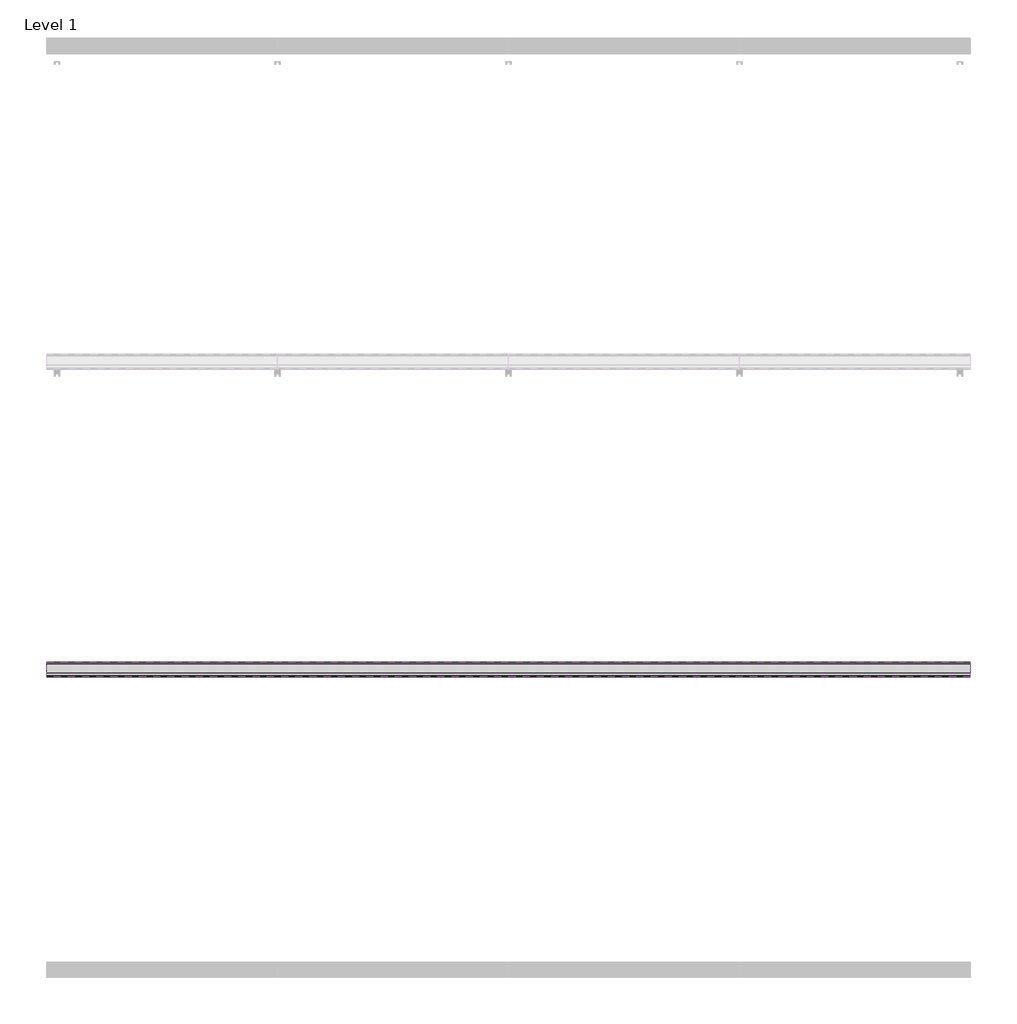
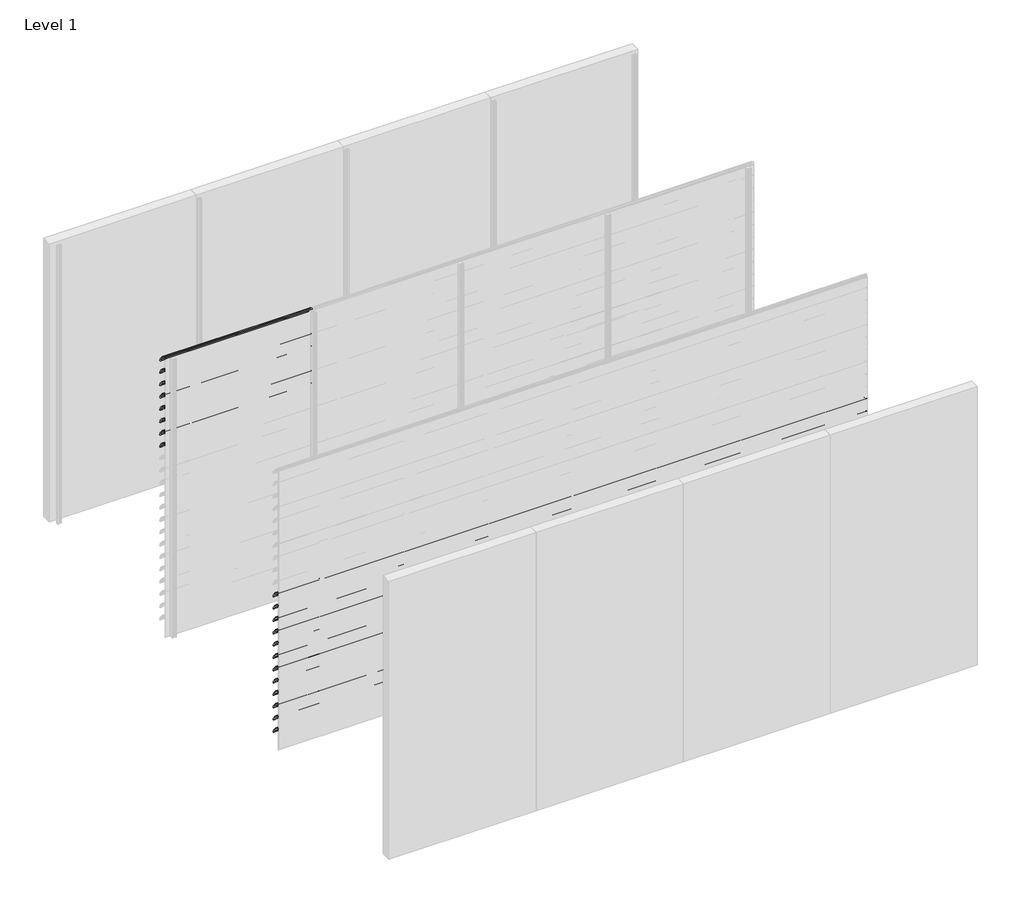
# One storey, part 42 of 57: 20 proxies.
"""IFC4 building model written with IfcOpenShell, lengths in millimetres."""

from ifc_helpers import new_model, si_unit, point, frame, frame_2d, origin, place, context, project, spatial, polyline, circle_curve, trimmed, segment, composite_curve, outline, extrude, element, save

model = new_model("IFC4")

# Units and contexts
model_context = context("Model", 3, world=origin())
ifc_project = project(units=[si_unit("LENGTHUNIT", "METRE", prefix="MILLI")], contexts=[model_context])

# Site, building, storey
site = spatial("IfcSite", under=ifc_project)
building = spatial("IfcBuilding", under=site)
storey = spatial("IfcBuildingStorey", under=building, Name="Level 1", Elevation=0.0)

# Proxies
placement = place(None, origin())
element("IfcBuildingElementProxy", 1, Name="Wall Sweeps", at=placement, inside=storey, context=model_context, shape_type="SweptSolid", body=[
    extrude(outline(composite_curve([segment(trimmed(circle_curve(frame_2d((-11993.7822526, 3016.4913792)), 4.2177474), [point((-11989.6985606, 3017.5462976))], [point((-11993.7822526, 3020.7091266))], False, "CARTESIAN"), True, "CONTINUOUS"), segment(trimmed(circle_curve(frame_2d((-12018.7150834, 2918.2536312)), 105.4456002), [point((-11993.7822526, 3020.7091266))], [point((-11971.7914298, 3012.6832099))], False, "CARTESIAN"), True, "CONTINUOUS"), segment(trimmed(circle_curve(frame_2d((-12061.7199745, 2864.0352476)), 173.7335887), [point((-11971.7914298, 3012.6832099))], [point((-11913.0720121, 2953.9637922))], False, "CARTESIAN"), True, "CONTINUOUS"), segment(trimmed(circle_curve(frame_2d((-12004.9297178, 2902.1860314)), 105.4456002), [point((-11913.0720121, 2953.9637922))], [point((-11903.6249616, 2931.4455765))], False, "CARTESIAN"), True, "CONTINUOUS"), segment(trimmed(circle_curve(frame_2d((-11907.809737, 2930.3307305)), 4.3307305), [point((-11903.6249616, 2931.4455765))], [point((-11909.0769196, 2926.189538))], False, "CARTESIAN"), True, "CONTINUOUS"), segment(polyline([(-11909.0769196, 2926.189538), (-11934.7401984, 2950.9722783)]), True, "CONTINUOUS"), segment(trimmed(circle_curve(frame_2d((-11931.3879574, 2953.2977626)), 4.079877), [point((-11934.7401984, 2950.9722783))], [point((-11930.7310597, 2957.3244091))], False, "CARTESIAN"), True, "CONTINUOUS"), segment(trimmed(circle_curve(frame_2d((-12014.6665585, 2935.2544323)), 86.7885467), [point((-11930.7310597, 2957.3244091))], [point((-11942.3028351, 2983.1683485))], True, "CARTESIAN"), True, "CONTINUOUS"), segment(polyline([(-11942.3028351, 2983.1683485), (-11940.7230099, 2985.9046861)]), True, "CONTINUOUS"), segment(trimmed(circle_curve(frame_2d((-12061.7199745, 2864.0352476)), 171.7335887), [point((-11940.7230099, 2985.9046861))], [point((-11972.7555872, 3010.9289618))], True, "CARTESIAN"), True, "CONTINUOUS"), segment(trimmed(circle_curve(frame_2d((-12018.7150834, 2918.2536312)), 103.4456002), [point((-11972.7555872, 3010.9289618))], [point((-11989.6985606, 3017.5462976))], True, "CARTESIAN"), True, "CONTINUOUS")], self_intersect=False)), frame((0.0, 0.0, 0.0), z_axis=(1.0, 0.0, 0.0), x_axis=(0.0, 1.0, 0.0)), (0.0, 0.0, 1.0), 1500.0),
])
element("IfcBuildingElementProxy", 2, Name="Wall Sweeps", at=placement, inside=storey, context=model_context, shape_type="SweptSolid", body=[
    extrude(outline(composite_curve([segment(trimmed(circle_curve(frame_2d((-11993.7822526, 2883.4913792)), 4.2177474), [point((-11989.6985606, 2884.5462976))], [point((-11993.7822526, 2887.7091266))], False, "CARTESIAN"), True, "CONTINUOUS"), segment(trimmed(circle_curve(frame_2d((-12018.7150834, 2785.2536312)), 105.4456002), [point((-11993.7822526, 2887.7091266))], [point((-11971.7914298, 2879.6832099))], False, "CARTESIAN"), True, "CONTINUOUS"), segment(trimmed(circle_curve(frame_2d((-12061.7199745, 2731.0352476)), 173.7335887), [point((-11971.7914298, 2879.6832099))], [point((-11913.0720121, 2820.9637922))], False, "CARTESIAN"), True, "CONTINUOUS"), segment(trimmed(circle_curve(frame_2d((-12004.9297178, 2769.1860314)), 105.4456002), [point((-11913.0720121, 2820.9637922))], [point((-11903.6249616, 2798.4455765))], False, "CARTESIAN"), True, "CONTINUOUS"), segment(trimmed(circle_curve(frame_2d((-11907.809737, 2797.3307305)), 4.3307305), [point((-11903.6249616, 2798.4455765))], [point((-11909.0769196, 2793.189538))], False, "CARTESIAN"), True, "CONTINUOUS"), segment(polyline([(-11909.0769196, 2793.189538), (-11934.7401984, 2817.9722783)]), True, "CONTINUOUS"), segment(trimmed(circle_curve(frame_2d((-11931.3879574, 2820.2977626)), 4.079877), [point((-11934.7401984, 2817.9722783))], [point((-11930.7310597, 2824.3244091))], False, "CARTESIAN"), True, "CONTINUOUS"), segment(trimmed(circle_curve(frame_2d((-12014.6665585, 2802.2544323)), 86.7885467), [point((-11930.7310597, 2824.3244091))], [point((-11942.3028351, 2850.1683485))], True, "CARTESIAN"), True, "CONTINUOUS"), segment(polyline([(-11942.3028351, 2850.1683485), (-11940.7230099, 2852.9046861)]), True, "CONTINUOUS"), segment(trimmed(circle_curve(frame_2d((-12061.7199745, 2731.0352476)), 171.7335887), [point((-11940.7230099, 2852.9046861))], [point((-11972.7555872, 2877.9289618))], True, "CARTESIAN"), True, "CONTINUOUS"), segment(trimmed(circle_curve(frame_2d((-12018.7150834, 2785.2536312)), 103.4456002), [point((-11972.7555872, 2877.9289618))], [point((-11989.6985606, 2884.5462976))], True, "CARTESIAN"), True, "CONTINUOUS")], self_intersect=False)), frame((0.0, 0.0, 0.0), z_axis=(1.0, 0.0, 0.0), x_axis=(0.0, 1.0, 0.0)), (0.0, 0.0, 1.0), 1500.0),
])
element("IfcBuildingElementProxy", 3, Name="Wall Sweeps", at=placement, inside=storey, context=model_context, shape_type="SweptSolid", body=[
    extrude(outline(composite_curve([segment(trimmed(circle_curve(frame_2d((-11993.7822526, 2750.4913792)), 4.2177474), [point((-11989.6985606, 2751.5462976))], [point((-11993.7822526, 2754.7091266))], False, "CARTESIAN"), True, "CONTINUOUS"), segment(trimmed(circle_curve(frame_2d((-12018.7150834, 2652.2536312)), 105.4456002), [point((-11993.7822526, 2754.7091266))], [point((-11971.7914298, 2746.6832099))], False, "CARTESIAN"), True, "CONTINUOUS"), segment(trimmed(circle_curve(frame_2d((-12061.7199745, 2598.0352476)), 173.7335887), [point((-11971.7914298, 2746.6832099))], [point((-11913.0720121, 2687.9637922))], False, "CARTESIAN"), True, "CONTINUOUS"), segment(trimmed(circle_curve(frame_2d((-12004.9297178, 2636.1860314)), 105.4456002), [point((-11913.0720121, 2687.9637922))], [point((-11903.6249616, 2665.4455765))], False, "CARTESIAN"), True, "CONTINUOUS"), segment(trimmed(circle_curve(frame_2d((-11907.809737, 2664.3307305)), 4.3307305), [point((-11903.6249616, 2665.4455765))], [point((-11909.0769196, 2660.189538))], False, "CARTESIAN"), True, "CONTINUOUS"), segment(polyline([(-11909.0769196, 2660.189538), (-11934.7401984, 2684.9722783)]), True, "CONTINUOUS"), segment(trimmed(circle_curve(frame_2d((-11931.3879574, 2687.2977626)), 4.079877), [point((-11934.7401984, 2684.9722783))], [point((-11930.7310597, 2691.3244091))], False, "CARTESIAN"), True, "CONTINUOUS"), segment(trimmed(circle_curve(frame_2d((-12014.6665585, 2669.2544323)), 86.7885467), [point((-11930.7310597, 2691.3244091))], [point((-11942.3028351, 2717.1683485))], True, "CARTESIAN"), True, "CONTINUOUS"), segment(polyline([(-11942.3028351, 2717.1683485), (-11940.7230099, 2719.9046861)]), True, "CONTINUOUS"), segment(trimmed(circle_curve(frame_2d((-12061.7199745, 2598.0352476)), 171.7335887), [point((-11940.7230099, 2719.9046861))], [point((-11972.7555872, 2744.9289618))], True, "CARTESIAN"), True, "CONTINUOUS"), segment(trimmed(circle_curve(frame_2d((-12018.7150834, 2652.2536312)), 103.4456002), [point((-11972.7555872, 2744.9289618))], [point((-11989.6985606, 2751.5462976))], True, "CARTESIAN"), True, "CONTINUOUS")], self_intersect=False)), frame((0.0, 0.0, 0.0), z_axis=(1.0, 0.0, 0.0), x_axis=(0.0, 1.0, 0.0)), (0.0, 0.0, 1.0), 1500.0),
])
element("IfcBuildingElementProxy", 4, Name="Wall Sweeps", at=placement, inside=storey, context=model_context, shape_type="SweptSolid", body=[
    extrude(outline(composite_curve([segment(trimmed(circle_curve(frame_2d((-11993.7822526, 2617.4913792)), 4.2177474), [point((-11989.6985606, 2618.5462976))], [point((-11993.7822526, 2621.7091266))], False, "CARTESIAN"), True, "CONTINUOUS"), segment(trimmed(circle_curve(frame_2d((-12018.7150834, 2519.2536312)), 105.4456002), [point((-11993.7822526, 2621.7091266))], [point((-11971.7914298, 2613.6832099))], False, "CARTESIAN"), True, "CONTINUOUS"), segment(trimmed(circle_curve(frame_2d((-12061.7199745, 2465.0352476)), 173.7335887), [point((-11971.7914298, 2613.6832099))], [point((-11913.0720121, 2554.9637922))], False, "CARTESIAN"), True, "CONTINUOUS"), segment(trimmed(circle_curve(frame_2d((-12004.9297178, 2503.1860314)), 105.4456002), [point((-11913.0720121, 2554.9637922))], [point((-11903.6249616, 2532.4455765))], False, "CARTESIAN"), True, "CONTINUOUS"), segment(trimmed(circle_curve(frame_2d((-11907.809737, 2531.3307305)), 4.3307305), [point((-11903.6249616, 2532.4455765))], [point((-11909.0769196, 2527.189538))], False, "CARTESIAN"), True, "CONTINUOUS"), segment(polyline([(-11909.0769196, 2527.189538), (-11934.7401984, 2551.9722783)]), True, "CONTINUOUS"), segment(trimmed(circle_curve(frame_2d((-11931.3879574, 2554.2977626)), 4.079877), [point((-11934.7401984, 2551.9722783))], [point((-11930.7310597, 2558.3244091))], False, "CARTESIAN"), True, "CONTINUOUS"), segment(trimmed(circle_curve(frame_2d((-12014.6665585, 2536.2544323)), 86.7885467), [point((-11930.7310597, 2558.3244091))], [point((-11942.3028351, 2584.1683485))], True, "CARTESIAN"), True, "CONTINUOUS"), segment(polyline([(-11942.3028351, 2584.1683485), (-11940.7230099, 2586.9046861)]), True, "CONTINUOUS"), segment(trimmed(circle_curve(frame_2d((-12061.7199745, 2465.0352476)), 171.7335887), [point((-11940.7230099, 2586.9046861))], [point((-11972.7555872, 2611.9289618))], True, "CARTESIAN"), True, "CONTINUOUS"), segment(trimmed(circle_curve(frame_2d((-12018.7150834, 2519.2536312)), 103.4456002), [point((-11972.7555872, 2611.9289618))], [point((-11989.6985606, 2618.5462976))], True, "CARTESIAN"), True, "CONTINUOUS")], self_intersect=False)), frame((0.0, 0.0, 0.0), z_axis=(1.0, 0.0, 0.0), x_axis=(0.0, 1.0, 0.0)), (0.0, 0.0, 1.0), 1500.0),
])
element("IfcBuildingElementProxy", 5, Name="Wall Sweeps", at=placement, inside=storey, context=model_context, shape_type="SweptSolid", body=[
    extrude(outline(composite_curve([segment(trimmed(circle_curve(frame_2d((-11993.7822526, 2484.4913792)), 4.2177474), [point((-11989.6985606, 2485.5462976))], [point((-11993.7822526, 2488.7091266))], False, "CARTESIAN"), True, "CONTINUOUS"), segment(trimmed(circle_curve(frame_2d((-12018.7150834, 2386.2536312)), 105.4456002), [point((-11993.7822526, 2488.7091266))], [point((-11971.7914298, 2480.6832099))], False, "CARTESIAN"), True, "CONTINUOUS"), segment(trimmed(circle_curve(frame_2d((-12061.7199745, 2332.0352476)), 173.7335887), [point((-11971.7914298, 2480.6832099))], [point((-11913.0720121, 2421.9637922))], False, "CARTESIAN"), True, "CONTINUOUS"), segment(trimmed(circle_curve(frame_2d((-12004.9297178, 2370.1860314)), 105.4456002), [point((-11913.0720121, 2421.9637922))], [point((-11903.6249616, 2399.4455765))], False, "CARTESIAN"), True, "CONTINUOUS"), segment(trimmed(circle_curve(frame_2d((-11907.809737, 2398.3307305)), 4.3307305), [point((-11903.6249616, 2399.4455765))], [point((-11909.0769196, 2394.189538))], False, "CARTESIAN"), True, "CONTINUOUS"), segment(polyline([(-11909.0769196, 2394.189538), (-11934.7401984, 2418.9722783)]), True, "CONTINUOUS"), segment(trimmed(circle_curve(frame_2d((-11931.3879574, 2421.2977626)), 4.079877), [point((-11934.7401984, 2418.9722783))], [point((-11930.7310597, 2425.3244091))], False, "CARTESIAN"), True, "CONTINUOUS"), segment(trimmed(circle_curve(frame_2d((-12014.6665585, 2403.2544323)), 86.7885467), [point((-11930.7310597, 2425.3244091))], [point((-11942.3028351, 2451.1683485))], True, "CARTESIAN"), True, "CONTINUOUS"), segment(polyline([(-11942.3028351, 2451.1683485), (-11940.7230099, 2453.9046861)]), True, "CONTINUOUS"), segment(trimmed(circle_curve(frame_2d((-12061.7199745, 2332.0352476)), 171.7335887), [point((-11940.7230099, 2453.9046861))], [point((-11972.7555872, 2478.9289618))], True, "CARTESIAN"), True, "CONTINUOUS"), segment(trimmed(circle_curve(frame_2d((-12018.7150834, 2386.2536312)), 103.4456002), [point((-11972.7555872, 2478.9289618))], [point((-11989.6985606, 2485.5462976))], True, "CARTESIAN"), True, "CONTINUOUS")], self_intersect=False)), frame((0.0, 0.0, 0.0), z_axis=(1.0, 0.0, 0.0), x_axis=(0.0, 1.0, 0.0)), (0.0, 0.0, 1.0), 1500.0),
])
element("IfcBuildingElementProxy", 6, Name="Wall Sweeps", at=placement, inside=storey, context=model_context, shape_type="SweptSolid", body=[
    extrude(outline(composite_curve([segment(trimmed(circle_curve(frame_2d((-11993.7822526, 2351.4913792)), 4.2177474), [point((-11989.6985606, 2352.5462976))], [point((-11993.7822526, 2355.7091266))], False, "CARTESIAN"), True, "CONTINUOUS"), segment(trimmed(circle_curve(frame_2d((-12018.7150834, 2253.2536312)), 105.4456002), [point((-11993.7822526, 2355.7091266))], [point((-11971.7914298, 2347.6832099))], False, "CARTESIAN"), True, "CONTINUOUS"), segment(trimmed(circle_curve(frame_2d((-12061.7199745, 2199.0352476)), 173.7335887), [point((-11971.7914298, 2347.6832099))], [point((-11913.0720121, 2288.9637922))], False, "CARTESIAN"), True, "CONTINUOUS"), segment(trimmed(circle_curve(frame_2d((-12004.9297178, 2237.1860314)), 105.4456002), [point((-11913.0720121, 2288.9637922))], [point((-11903.6249616, 2266.4455765))], False, "CARTESIAN"), True, "CONTINUOUS"), segment(trimmed(circle_curve(frame_2d((-11907.809737, 2265.3307305)), 4.3307305), [point((-11903.6249616, 2266.4455765))], [point((-11909.0769196, 2261.189538))], False, "CARTESIAN"), True, "CONTINUOUS"), segment(polyline([(-11909.0769196, 2261.189538), (-11934.7401984, 2285.9722783)]), True, "CONTINUOUS"), segment(trimmed(circle_curve(frame_2d((-11931.3879574, 2288.2977626)), 4.079877), [point((-11934.7401984, 2285.9722783))], [point((-11930.7310597, 2292.3244091))], False, "CARTESIAN"), True, "CONTINUOUS"), segment(trimmed(circle_curve(frame_2d((-12014.6665585, 2270.2544323)), 86.7885467), [point((-11930.7310597, 2292.3244091))], [point((-11942.3028351, 2318.1683485))], True, "CARTESIAN"), True, "CONTINUOUS"), segment(polyline([(-11942.3028351, 2318.1683485), (-11940.7230099, 2320.9046861)]), True, "CONTINUOUS"), segment(trimmed(circle_curve(frame_2d((-12061.7199745, 2199.0352476)), 171.7335887), [point((-11940.7230099, 2320.9046861))], [point((-11972.7555872, 2345.9289618))], True, "CARTESIAN"), True, "CONTINUOUS"), segment(trimmed(circle_curve(frame_2d((-12018.7150834, 2253.2536312)), 103.4456002), [point((-11972.7555872, 2345.9289618))], [point((-11989.6985606, 2352.5462976))], True, "CARTESIAN"), True, "CONTINUOUS")], self_intersect=False)), frame((0.0, 0.0, 0.0), z_axis=(1.0, 0.0, 0.0), x_axis=(0.0, 1.0, 0.0)), (0.0, 0.0, 1.0), 1500.0),
])
element("IfcBuildingElementProxy", 7, Name="Wall Sweeps", at=placement, inside=storey, context=model_context, shape_type="SweptSolid", body=[
    extrude(outline(composite_curve([segment(trimmed(circle_curve(frame_2d((-11993.7822526, 2218.4913792)), 4.2177474), [point((-11989.6985606, 2219.5462976))], [point((-11993.7822526, 2222.7091266))], False, "CARTESIAN"), True, "CONTINUOUS"), segment(trimmed(circle_curve(frame_2d((-12018.7150834, 2120.2536312)), 105.4456002), [point((-11993.7822526, 2222.7091266))], [point((-11971.7914298, 2214.6832099))], False, "CARTESIAN"), True, "CONTINUOUS"), segment(trimmed(circle_curve(frame_2d((-12061.7199745, 2066.0352476)), 173.7335887), [point((-11971.7914298, 2214.6832099))], [point((-11913.0720121, 2155.9637922))], False, "CARTESIAN"), True, "CONTINUOUS"), segment(trimmed(circle_curve(frame_2d((-12004.9297178, 2104.1860314)), 105.4456002), [point((-11913.0720121, 2155.9637922))], [point((-11903.6249616, 2133.4455765))], False, "CARTESIAN"), True, "CONTINUOUS"), segment(trimmed(circle_curve(frame_2d((-11907.809737, 2132.3307305)), 4.3307305), [point((-11903.6249616, 2133.4455765))], [point((-11909.0769196, 2128.189538))], False, "CARTESIAN"), True, "CONTINUOUS"), segment(polyline([(-11909.0769196, 2128.189538), (-11934.7401984, 2152.9722783)]), True, "CONTINUOUS"), segment(trimmed(circle_curve(frame_2d((-11931.3879574, 2155.2977626)), 4.079877), [point((-11934.7401984, 2152.9722783))], [point((-11930.7310597, 2159.3244091))], False, "CARTESIAN"), True, "CONTINUOUS"), segment(trimmed(circle_curve(frame_2d((-12014.6665585, 2137.2544323)), 86.7885467), [point((-11930.7310597, 2159.3244091))], [point((-11942.3028351, 2185.1683485))], True, "CARTESIAN"), True, "CONTINUOUS"), segment(polyline([(-11942.3028351, 2185.1683485), (-11940.7230099, 2187.9046861)]), True, "CONTINUOUS"), segment(trimmed(circle_curve(frame_2d((-12061.7199745, 2066.0352476)), 171.7335887), [point((-11940.7230099, 2187.9046861))], [point((-11972.7555872, 2212.9289618))], True, "CARTESIAN"), True, "CONTINUOUS"), segment(trimmed(circle_curve(frame_2d((-12018.7150834, 2120.2536312)), 103.4456002), [point((-11972.7555872, 2212.9289618))], [point((-11989.6985606, 2219.5462976))], True, "CARTESIAN"), True, "CONTINUOUS")], self_intersect=False)), frame((0.0, 0.0, 0.0), z_axis=(1.0, 0.0, 0.0), x_axis=(0.0, 1.0, 0.0)), (0.0, 0.0, 1.0), 1500.0),
])
element("IfcBuildingElementProxy", 8, Name="Wall Sweeps", at=placement, inside=storey, context=model_context, shape_type="SweptSolid", body=[
    extrude(outline(composite_curve([segment(trimmed(circle_curve(frame_2d((-11993.7822526, 2085.4913792)), 4.2177474), [point((-11989.6985606, 2086.5462976))], [point((-11993.7822526, 2089.7091266))], False, "CARTESIAN"), True, "CONTINUOUS"), segment(trimmed(circle_curve(frame_2d((-12018.7150834, 1987.2536312)), 105.4456002), [point((-11993.7822526, 2089.7091266))], [point((-11971.7914298, 2081.6832099))], False, "CARTESIAN"), True, "CONTINUOUS"), segment(trimmed(circle_curve(frame_2d((-12061.7199745, 1933.0352476)), 173.7335887), [point((-11971.7914298, 2081.6832099))], [point((-11913.0720121, 2022.9637922))], False, "CARTESIAN"), True, "CONTINUOUS"), segment(trimmed(circle_curve(frame_2d((-12004.9297178, 1971.1860314)), 105.4456002), [point((-11913.0720121, 2022.9637922))], [point((-11903.6249616, 2000.4455765))], False, "CARTESIAN"), True, "CONTINUOUS"), segment(trimmed(circle_curve(frame_2d((-11907.809737, 1999.3307305)), 4.3307305), [point((-11903.6249616, 2000.4455765))], [point((-11909.0769196, 1995.189538))], False, "CARTESIAN"), True, "CONTINUOUS"), segment(polyline([(-11909.0769196, 1995.189538), (-11934.7401984, 2019.9722783)]), True, "CONTINUOUS"), segment(trimmed(circle_curve(frame_2d((-11931.3879574, 2022.2977626)), 4.079877), [point((-11934.7401984, 2019.9722783))], [point((-11930.7310597, 2026.3244091))], False, "CARTESIAN"), True, "CONTINUOUS"), segment(trimmed(circle_curve(frame_2d((-12014.6665585, 2004.2544323)), 86.7885467), [point((-11930.7310597, 2026.3244091))], [point((-11942.3028351, 2052.1683485))], True, "CARTESIAN"), True, "CONTINUOUS"), segment(polyline([(-11942.3028351, 2052.1683485), (-11940.7230099, 2054.9046861)]), True, "CONTINUOUS"), segment(trimmed(circle_curve(frame_2d((-12061.7199745, 1933.0352476)), 171.7335887), [point((-11940.7230099, 2054.9046861))], [point((-11972.7555872, 2079.9289618))], True, "CARTESIAN"), True, "CONTINUOUS"), segment(trimmed(circle_curve(frame_2d((-12018.7150834, 1987.2536312)), 103.4456002), [point((-11972.7555872, 2079.9289618))], [point((-11989.6985606, 2086.5462976))], True, "CARTESIAN"), True, "CONTINUOUS")], self_intersect=False)), frame((0.0, 0.0, 0.0), z_axis=(1.0, 0.0, 0.0), x_axis=(0.0, 1.0, 0.0)), (0.0, 0.0, 1.0), 1500.0),
])
element("IfcBuildingElementProxy", 9, Name="Wall Sweeps", at=placement, inside=storey, context=model_context, shape_type="SweptSolid", body=[
    extrude(outline(composite_curve([segment(trimmed(circle_curve(frame_2d((-13993.7822526, 1686.4913792)), 4.2177474), [point((-13989.6985606, 1687.5462976))], [point((-13993.7822526, 1690.7091266))], False, "CARTESIAN"), True, "CONTINUOUS"), segment(trimmed(circle_curve(frame_2d((-14018.7150834, 1588.2536312)), 105.4456002), [point((-13993.7822526, 1690.7091266))], [point((-13971.7914298, 1682.6832099))], False, "CARTESIAN"), True, "CONTINUOUS"), segment(trimmed(circle_curve(frame_2d((-14061.7199745, 1534.0352476)), 173.7335887), [point((-13971.7914298, 1682.6832099))], [point((-13913.0720121, 1623.9637922))], False, "CARTESIAN"), True, "CONTINUOUS"), segment(trimmed(circle_curve(frame_2d((-14004.9297178, 1572.1860314)), 105.4456002), [point((-13913.0720121, 1623.9637922))], [point((-13903.6249616, 1601.4455765))], False, "CARTESIAN"), True, "CONTINUOUS"), segment(trimmed(circle_curve(frame_2d((-13907.809737, 1600.3307305)), 4.3307305), [point((-13903.6249616, 1601.4455765))], [point((-13909.0769196, 1596.189538))], False, "CARTESIAN"), True, "CONTINUOUS"), segment(polyline([(-13909.0769196, 1596.189538), (-13934.7401984, 1620.9722783)]), True, "CONTINUOUS"), segment(trimmed(circle_curve(frame_2d((-13931.3879574, 1623.2977626)), 4.079877), [point((-13934.7401984, 1620.9722783))], [point((-13930.7310597, 1627.3244091))], False, "CARTESIAN"), True, "CONTINUOUS"), segment(trimmed(circle_curve(frame_2d((-14014.6665585, 1605.2544323)), 86.7885467), [point((-13930.7310597, 1627.3244091))], [point((-13942.3028351, 1653.1683485))], True, "CARTESIAN"), True, "CONTINUOUS"), segment(polyline([(-13942.3028351, 1653.1683485), (-13940.7230099, 1655.9046861)]), True, "CONTINUOUS"), segment(trimmed(circle_curve(frame_2d((-14061.7199745, 1534.0352476)), 171.7335887), [point((-13940.7230099, 1655.9046861))], [point((-13972.7555872, 1680.9289618))], True, "CARTESIAN"), True, "CONTINUOUS"), segment(trimmed(circle_curve(frame_2d((-14018.7150834, 1588.2536312)), 103.4456002), [point((-13972.7555872, 1680.9289618))], [point((-13989.6985606, 1687.5462976))], True, "CARTESIAN"), True, "CONTINUOUS")], self_intersect=False)), frame((0.0, 0.0, 0.0), z_axis=(1.0, 0.0, 0.0), x_axis=(0.0, 1.0, 0.0)), (0.0, 0.0, 1.0), 6000.0),
])
element("IfcBuildingElementProxy", 10, Name="Wall Sweeps", at=placement, inside=storey, context=model_context, shape_type="SweptSolid", body=[
    extrude(outline(composite_curve([segment(trimmed(circle_curve(frame_2d((-13993.7822526, 1553.4913792)), 4.2177474), [point((-13989.6985606, 1554.5462976))], [point((-13993.7822526, 1557.7091266))], False, "CARTESIAN"), True, "CONTINUOUS"), segment(trimmed(circle_curve(frame_2d((-14018.7150834, 1455.2536312)), 105.4456002), [point((-13993.7822526, 1557.7091266))], [point((-13971.7914298, 1549.6832099))], False, "CARTESIAN"), True, "CONTINUOUS"), segment(trimmed(circle_curve(frame_2d((-14061.7199745, 1401.0352476)), 173.7335887), [point((-13971.7914298, 1549.6832099))], [point((-13913.0720121, 1490.9637922))], False, "CARTESIAN"), True, "CONTINUOUS"), segment(trimmed(circle_curve(frame_2d((-14004.9297178, 1439.1860314)), 105.4456002), [point((-13913.0720121, 1490.9637922))], [point((-13903.6249616, 1468.4455765))], False, "CARTESIAN"), True, "CONTINUOUS"), segment(trimmed(circle_curve(frame_2d((-13907.809737, 1467.3307305)), 4.3307305), [point((-13903.6249616, 1468.4455765))], [point((-13909.0769196, 1463.189538))], False, "CARTESIAN"), True, "CONTINUOUS"), segment(polyline([(-13909.0769196, 1463.189538), (-13934.7401984, 1487.9722783)]), True, "CONTINUOUS"), segment(trimmed(circle_curve(frame_2d((-13931.3879574, 1490.2977626)), 4.079877), [point((-13934.7401984, 1487.9722783))], [point((-13930.7310597, 1494.3244091))], False, "CARTESIAN"), True, "CONTINUOUS"), segment(trimmed(circle_curve(frame_2d((-14014.6665585, 1472.2544323)), 86.7885467), [point((-13930.7310597, 1494.3244091))], [point((-13942.3028351, 1520.1683485))], True, "CARTESIAN"), True, "CONTINUOUS"), segment(polyline([(-13942.3028351, 1520.1683485), (-13940.7230099, 1522.9046861)]), True, "CONTINUOUS"), segment(trimmed(circle_curve(frame_2d((-14061.7199745, 1401.0352476)), 171.7335887), [point((-13940.7230099, 1522.9046861))], [point((-13972.7555872, 1547.9289618))], True, "CARTESIAN"), True, "CONTINUOUS"), segment(trimmed(circle_curve(frame_2d((-14018.7150834, 1455.2536312)), 103.4456002), [point((-13972.7555872, 1547.9289618))], [point((-13989.6985606, 1554.5462976))], True, "CARTESIAN"), True, "CONTINUOUS")], self_intersect=False)), frame((0.0, 0.0, 0.0), z_axis=(1.0, 0.0, 0.0), x_axis=(0.0, 1.0, 0.0)), (0.0, 0.0, 1.0), 6000.0),
])
element("IfcBuildingElementProxy", 11, Name="Wall Sweeps", at=placement, inside=storey, context=model_context, shape_type="SweptSolid", body=[
    extrude(outline(composite_curve([segment(trimmed(circle_curve(frame_2d((-13993.7822526, 1420.4913792)), 4.2177474), [point((-13989.6985606, 1421.5462976))], [point((-13993.7822526, 1424.7091266))], False, "CARTESIAN"), True, "CONTINUOUS"), segment(trimmed(circle_curve(frame_2d((-14018.7150834, 1322.2536312)), 105.4456002), [point((-13993.7822526, 1424.7091266))], [point((-13971.7914298, 1416.6832099))], False, "CARTESIAN"), True, "CONTINUOUS"), segment(trimmed(circle_curve(frame_2d((-14061.7199745, 1268.0352476)), 173.7335887), [point((-13971.7914298, 1416.6832099))], [point((-13913.0720121, 1357.9637922))], False, "CARTESIAN"), True, "CONTINUOUS"), segment(trimmed(circle_curve(frame_2d((-14004.9297178, 1306.1860314)), 105.4456002), [point((-13913.0720121, 1357.9637922))], [point((-13903.6249616, 1335.4455765))], False, "CARTESIAN"), True, "CONTINUOUS"), segment(trimmed(circle_curve(frame_2d((-13907.809737, 1334.3307305)), 4.3307305), [point((-13903.6249616, 1335.4455765))], [point((-13909.0769196, 1330.189538))], False, "CARTESIAN"), True, "CONTINUOUS"), segment(polyline([(-13909.0769196, 1330.189538), (-13934.7401984, 1354.9722783)]), True, "CONTINUOUS"), segment(trimmed(circle_curve(frame_2d((-13931.3879574, 1357.2977626)), 4.079877), [point((-13934.7401984, 1354.9722783))], [point((-13930.7310597, 1361.3244091))], False, "CARTESIAN"), True, "CONTINUOUS"), segment(trimmed(circle_curve(frame_2d((-14014.6665585, 1339.2544323)), 86.7885467), [point((-13930.7310597, 1361.3244091))], [point((-13942.3028351, 1387.1683485))], True, "CARTESIAN"), True, "CONTINUOUS"), segment(polyline([(-13942.3028351, 1387.1683485), (-13940.7230099, 1389.9046861)]), True, "CONTINUOUS"), segment(trimmed(circle_curve(frame_2d((-14061.7199745, 1268.0352476)), 171.7335887), [point((-13940.7230099, 1389.9046861))], [point((-13972.7555872, 1414.9289618))], True, "CARTESIAN"), True, "CONTINUOUS"), segment(trimmed(circle_curve(frame_2d((-14018.7150834, 1322.2536312)), 103.4456002), [point((-13972.7555872, 1414.9289618))], [point((-13989.6985606, 1421.5462976))], True, "CARTESIAN"), True, "CONTINUOUS")], self_intersect=False)), frame((0.0, 0.0, 0.0), z_axis=(1.0, 0.0, 0.0), x_axis=(0.0, 1.0, 0.0)), (0.0, 0.0, 1.0), 6000.0),
])
element("IfcBuildingElementProxy", 12, Name="Wall Sweeps", at=placement, inside=storey, context=model_context, shape_type="SweptSolid", body=[
    extrude(outline(composite_curve([segment(trimmed(circle_curve(frame_2d((-13993.7822526, 1287.4913792)), 4.2177474), [point((-13989.6985606, 1288.5462976))], [point((-13993.7822526, 1291.7091266))], False, "CARTESIAN"), True, "CONTINUOUS"), segment(trimmed(circle_curve(frame_2d((-14018.7150834, 1189.2536312)), 105.4456002), [point((-13993.7822526, 1291.7091266))], [point((-13971.7914298, 1283.6832099))], False, "CARTESIAN"), True, "CONTINUOUS"), segment(trimmed(circle_curve(frame_2d((-14061.7199745, 1135.0352476)), 173.7335887), [point((-13971.7914298, 1283.6832099))], [point((-13913.0720121, 1224.9637922))], False, "CARTESIAN"), True, "CONTINUOUS"), segment(trimmed(circle_curve(frame_2d((-14004.9297178, 1173.1860314)), 105.4456002), [point((-13913.0720121, 1224.9637922))], [point((-13903.6249616, 1202.4455765))], False, "CARTESIAN"), True, "CONTINUOUS"), segment(trimmed(circle_curve(frame_2d((-13907.809737, 1201.3307305)), 4.3307305), [point((-13903.6249616, 1202.4455765))], [point((-13909.0769196, 1197.189538))], False, "CARTESIAN"), True, "CONTINUOUS"), segment(polyline([(-13909.0769196, 1197.189538), (-13934.7401984, 1221.9722783)]), True, "CONTINUOUS"), segment(trimmed(circle_curve(frame_2d((-13931.3879574, 1224.2977626)), 4.079877), [point((-13934.7401984, 1221.9722783))], [point((-13930.7310597, 1228.3244091))], False, "CARTESIAN"), True, "CONTINUOUS"), segment(trimmed(circle_curve(frame_2d((-14014.6665585, 1206.2544323)), 86.7885467), [point((-13930.7310597, 1228.3244091))], [point((-13942.3028351, 1254.1683485))], True, "CARTESIAN"), True, "CONTINUOUS"), segment(polyline([(-13942.3028351, 1254.1683485), (-13940.7230099, 1256.9046861)]), True, "CONTINUOUS"), segment(trimmed(circle_curve(frame_2d((-14061.7199745, 1135.0352476)), 171.7335887), [point((-13940.7230099, 1256.9046861))], [point((-13972.7555872, 1281.9289618))], True, "CARTESIAN"), True, "CONTINUOUS"), segment(trimmed(circle_curve(frame_2d((-14018.7150834, 1189.2536312)), 103.4456002), [point((-13972.7555872, 1281.9289618))], [point((-13989.6985606, 1288.5462976))], True, "CARTESIAN"), True, "CONTINUOUS")], self_intersect=False)), frame((0.0, 0.0, 0.0), z_axis=(1.0, 0.0, 0.0), x_axis=(0.0, 1.0, 0.0)), (0.0, 0.0, 1.0), 6000.0),
])
element("IfcBuildingElementProxy", 13, Name="Wall Sweeps", at=placement, inside=storey, context=model_context, shape_type="SweptSolid", body=[
    extrude(outline(composite_curve([segment(trimmed(circle_curve(frame_2d((-13993.7822526, 1154.4913792)), 4.2177474), [point((-13989.6985606, 1155.5462976))], [point((-13993.7822526, 1158.7091266))], False, "CARTESIAN"), True, "CONTINUOUS"), segment(trimmed(circle_curve(frame_2d((-14018.7150834, 1056.2536312)), 105.4456002), [point((-13993.7822526, 1158.7091266))], [point((-13971.7914298, 1150.6832099))], False, "CARTESIAN"), True, "CONTINUOUS"), segment(trimmed(circle_curve(frame_2d((-14061.7199745, 1002.0352476)), 173.7335887), [point((-13971.7914298, 1150.6832099))], [point((-13913.0720121, 1091.9637922))], False, "CARTESIAN"), True, "CONTINUOUS"), segment(trimmed(circle_curve(frame_2d((-14004.9297178, 1040.1860314)), 105.4456002), [point((-13913.0720121, 1091.9637922))], [point((-13903.6249616, 1069.4455765))], False, "CARTESIAN"), True, "CONTINUOUS"), segment(trimmed(circle_curve(frame_2d((-13907.809737, 1068.3307305)), 4.3307305), [point((-13903.6249616, 1069.4455765))], [point((-13909.0769196, 1064.189538))], False, "CARTESIAN"), True, "CONTINUOUS"), segment(polyline([(-13909.0769196, 1064.189538), (-13934.7401984, 1088.9722783)]), True, "CONTINUOUS"), segment(trimmed(circle_curve(frame_2d((-13931.3879574, 1091.2977626)), 4.079877), [point((-13934.7401984, 1088.9722783))], [point((-13930.7310597, 1095.3244091))], False, "CARTESIAN"), True, "CONTINUOUS"), segment(trimmed(circle_curve(frame_2d((-14014.6665585, 1073.2544323)), 86.7885467), [point((-13930.7310597, 1095.3244091))], [point((-13942.3028351, 1121.1683485))], True, "CARTESIAN"), True, "CONTINUOUS"), segment(polyline([(-13942.3028351, 1121.1683485), (-13940.7230099, 1123.9046861)]), True, "CONTINUOUS"), segment(trimmed(circle_curve(frame_2d((-14061.7199745, 1002.0352476)), 171.7335887), [point((-13940.7230099, 1123.9046861))], [point((-13972.7555872, 1148.9289618))], True, "CARTESIAN"), True, "CONTINUOUS"), segment(trimmed(circle_curve(frame_2d((-14018.7150834, 1056.2536312)), 103.4456002), [point((-13972.7555872, 1148.9289618))], [point((-13989.6985606, 1155.5462976))], True, "CARTESIAN"), True, "CONTINUOUS")], self_intersect=False)), frame((0.0, 0.0, 0.0), z_axis=(1.0, 0.0, 0.0), x_axis=(0.0, 1.0, 0.0)), (0.0, 0.0, 1.0), 6000.0),
])
element("IfcBuildingElementProxy", 14, Name="Wall Sweeps", at=placement, inside=storey, context=model_context, shape_type="SweptSolid", body=[
    extrude(outline(composite_curve([segment(trimmed(circle_curve(frame_2d((-13993.7822526, 1021.4913792)), 4.2177474), [point((-13989.6985606, 1022.5462976))], [point((-13993.7822526, 1025.7091266))], False, "CARTESIAN"), True, "CONTINUOUS"), segment(trimmed(circle_curve(frame_2d((-14018.7150834, 923.2536312)), 105.4456002), [point((-13993.7822526, 1025.7091266))], [point((-13971.7914298, 1017.6832099))], False, "CARTESIAN"), True, "CONTINUOUS"), segment(trimmed(circle_curve(frame_2d((-14061.7199745, 869.0352476)), 173.7335887), [point((-13971.7914298, 1017.6832099))], [point((-13913.0720121, 958.9637922))], False, "CARTESIAN"), True, "CONTINUOUS"), segment(trimmed(circle_curve(frame_2d((-14004.9297178, 907.1860314)), 105.4456002), [point((-13913.0720121, 958.9637922))], [point((-13903.6249616, 936.4455765))], False, "CARTESIAN"), True, "CONTINUOUS"), segment(trimmed(circle_curve(frame_2d((-13907.809737, 935.3307305)), 4.3307305), [point((-13903.6249616, 936.4455765))], [point((-13909.0769196, 931.189538))], False, "CARTESIAN"), True, "CONTINUOUS"), segment(polyline([(-13909.0769196, 931.189538), (-13934.7401984, 955.9722783)]), True, "CONTINUOUS"), segment(trimmed(circle_curve(frame_2d((-13931.3879574, 958.2977626)), 4.079877), [point((-13934.7401984, 955.9722783))], [point((-13930.7310597, 962.3244091))], False, "CARTESIAN"), True, "CONTINUOUS"), segment(trimmed(circle_curve(frame_2d((-14014.6665585, 940.2544323)), 86.7885467), [point((-13930.7310597, 962.3244091))], [point((-13942.3028351, 988.1683485))], True, "CARTESIAN"), True, "CONTINUOUS"), segment(polyline([(-13942.3028351, 988.1683485), (-13940.7230099, 990.9046861)]), True, "CONTINUOUS"), segment(trimmed(circle_curve(frame_2d((-14061.7199745, 869.0352476)), 171.7335887), [point((-13940.7230099, 990.9046861))], [point((-13972.7555872, 1015.9289618))], True, "CARTESIAN"), True, "CONTINUOUS"), segment(trimmed(circle_curve(frame_2d((-14018.7150834, 923.2536312)), 103.4456002), [point((-13972.7555872, 1015.9289618))], [point((-13989.6985606, 1022.5462976))], True, "CARTESIAN"), True, "CONTINUOUS")], self_intersect=False)), frame((0.0, 0.0, 0.0), z_axis=(1.0, 0.0, 0.0), x_axis=(0.0, 1.0, 0.0)), (0.0, 0.0, 1.0), 6000.0),
])
element("IfcBuildingElementProxy", 15, Name="Wall Sweeps", at=placement, inside=storey, context=model_context, shape_type="SweptSolid", body=[
    extrude(outline(composite_curve([segment(trimmed(circle_curve(frame_2d((-13993.7822526, 888.4913792)), 4.2177474), [point((-13989.6985606, 889.5462976))], [point((-13993.7822526, 892.7091266))], False, "CARTESIAN"), True, "CONTINUOUS"), segment(trimmed(circle_curve(frame_2d((-14018.7150834, 790.2536312)), 105.4456002), [point((-13993.7822526, 892.7091266))], [point((-13971.7914298, 884.6832099))], False, "CARTESIAN"), True, "CONTINUOUS"), segment(trimmed(circle_curve(frame_2d((-14061.7199745, 736.0352476)), 173.7335887), [point((-13971.7914298, 884.6832099))], [point((-13913.0720121, 825.9637922))], False, "CARTESIAN"), True, "CONTINUOUS"), segment(trimmed(circle_curve(frame_2d((-14004.9297178, 774.1860314)), 105.4456002), [point((-13913.0720121, 825.9637922))], [point((-13903.6249616, 803.4455765))], False, "CARTESIAN"), True, "CONTINUOUS"), segment(trimmed(circle_curve(frame_2d((-13907.809737, 802.3307305)), 4.3307305), [point((-13903.6249616, 803.4455765))], [point((-13909.0769196, 798.189538))], False, "CARTESIAN"), True, "CONTINUOUS"), segment(polyline([(-13909.0769196, 798.189538), (-13934.7401984, 822.9722783)]), True, "CONTINUOUS"), segment(trimmed(circle_curve(frame_2d((-13931.3879574, 825.2977626)), 4.079877), [point((-13934.7401984, 822.9722783))], [point((-13930.7310597, 829.3244091))], False, "CARTESIAN"), True, "CONTINUOUS"), segment(trimmed(circle_curve(frame_2d((-14014.6665585, 807.2544323)), 86.7885467), [point((-13930.7310597, 829.3244091))], [point((-13942.3028351, 855.1683485))], True, "CARTESIAN"), True, "CONTINUOUS"), segment(polyline([(-13942.3028351, 855.1683485), (-13940.7230099, 857.9046861)]), True, "CONTINUOUS"), segment(trimmed(circle_curve(frame_2d((-14061.7199745, 736.0352476)), 171.7335887), [point((-13940.7230099, 857.9046861))], [point((-13972.7555872, 882.9289618))], True, "CARTESIAN"), True, "CONTINUOUS"), segment(trimmed(circle_curve(frame_2d((-14018.7150834, 790.2536312)), 103.4456002), [point((-13972.7555872, 882.9289618))], [point((-13989.6985606, 889.5462976))], True, "CARTESIAN"), True, "CONTINUOUS")], self_intersect=False)), frame((0.0, 0.0, 0.0), z_axis=(1.0, 0.0, 0.0), x_axis=(0.0, 1.0, 0.0)), (0.0, 0.0, 1.0), 6000.0),
])
element("IfcBuildingElementProxy", 16, Name="Wall Sweeps", at=placement, inside=storey, context=model_context, shape_type="SweptSolid", body=[
    extrude(outline(composite_curve([segment(trimmed(circle_curve(frame_2d((-13993.7822526, 755.4913792)), 4.2177474), [point((-13989.6985606, 756.5462976))], [point((-13993.7822526, 759.7091266))], False, "CARTESIAN"), True, "CONTINUOUS"), segment(trimmed(circle_curve(frame_2d((-14018.7150834, 657.2536312)), 105.4456002), [point((-13993.7822526, 759.7091266))], [point((-13971.7914298, 751.6832099))], False, "CARTESIAN"), True, "CONTINUOUS"), segment(trimmed(circle_curve(frame_2d((-14061.7199745, 603.0352476)), 173.7335887), [point((-13971.7914298, 751.6832099))], [point((-13913.0720121, 692.9637922))], False, "CARTESIAN"), True, "CONTINUOUS"), segment(trimmed(circle_curve(frame_2d((-14004.9297178, 641.1860314)), 105.4456002), [point((-13913.0720121, 692.9637922))], [point((-13903.6249616, 670.4455765))], False, "CARTESIAN"), True, "CONTINUOUS"), segment(trimmed(circle_curve(frame_2d((-13907.809737, 669.3307305)), 4.3307305), [point((-13903.6249616, 670.4455765))], [point((-13909.0769196, 665.189538))], False, "CARTESIAN"), True, "CONTINUOUS"), segment(polyline([(-13909.0769196, 665.189538), (-13934.7401984, 689.9722783)]), True, "CONTINUOUS"), segment(trimmed(circle_curve(frame_2d((-13931.3879574, 692.2977626)), 4.079877), [point((-13934.7401984, 689.9722783))], [point((-13930.7310597, 696.3244091))], False, "CARTESIAN"), True, "CONTINUOUS"), segment(trimmed(circle_curve(frame_2d((-14014.6665585, 674.2544323)), 86.7885467), [point((-13930.7310597, 696.3244091))], [point((-13942.3028351, 722.1683485))], True, "CARTESIAN"), True, "CONTINUOUS"), segment(polyline([(-13942.3028351, 722.1683485), (-13940.7230099, 724.9046861)]), True, "CONTINUOUS"), segment(trimmed(circle_curve(frame_2d((-14061.7199745, 603.0352476)), 171.7335887), [point((-13940.7230099, 724.9046861))], [point((-13972.7555872, 749.9289618))], True, "CARTESIAN"), True, "CONTINUOUS"), segment(trimmed(circle_curve(frame_2d((-14018.7150834, 657.2536312)), 103.4456002), [point((-13972.7555872, 749.9289618))], [point((-13989.6985606, 756.5462976))], True, "CARTESIAN"), True, "CONTINUOUS")], self_intersect=False)), frame((0.0, 0.0, 0.0), z_axis=(1.0, 0.0, 0.0), x_axis=(0.0, 1.0, 0.0)), (0.0, 0.0, 1.0), 6000.0),
])
element("IfcBuildingElementProxy", 17, Name="Wall Sweeps", at=placement, inside=storey, context=model_context, shape_type="SweptSolid", body=[
    extrude(outline(composite_curve([segment(trimmed(circle_curve(frame_2d((-13993.7822526, 622.4913792)), 4.2177474), [point((-13989.6985606, 623.5462976))], [point((-13993.7822526, 626.7091266))], False, "CARTESIAN"), True, "CONTINUOUS"), segment(trimmed(circle_curve(frame_2d((-14018.7150834, 524.2536312)), 105.4456002), [point((-13993.7822526, 626.7091266))], [point((-13971.7914298, 618.6832099))], False, "CARTESIAN"), True, "CONTINUOUS"), segment(trimmed(circle_curve(frame_2d((-14061.7199745, 470.0352476)), 173.7335887), [point((-13971.7914298, 618.6832099))], [point((-13913.0720121, 559.9637922))], False, "CARTESIAN"), True, "CONTINUOUS"), segment(trimmed(circle_curve(frame_2d((-14004.9297178, 508.1860314)), 105.4456002), [point((-13913.0720121, 559.9637922))], [point((-13903.6249616, 537.4455765))], False, "CARTESIAN"), True, "CONTINUOUS"), segment(trimmed(circle_curve(frame_2d((-13907.809737, 536.3307305)), 4.3307305), [point((-13903.6249616, 537.4455765))], [point((-13909.0769196, 532.189538))], False, "CARTESIAN"), True, "CONTINUOUS"), segment(polyline([(-13909.0769196, 532.189538), (-13934.7401984, 556.9722783)]), True, "CONTINUOUS"), segment(trimmed(circle_curve(frame_2d((-13931.3879574, 559.2977626)), 4.079877), [point((-13934.7401984, 556.9722783))], [point((-13930.7310597, 563.3244091))], False, "CARTESIAN"), True, "CONTINUOUS"), segment(trimmed(circle_curve(frame_2d((-14014.6665585, 541.2544323)), 86.7885467), [point((-13930.7310597, 563.3244091))], [point((-13942.3028351, 589.1683485))], True, "CARTESIAN"), True, "CONTINUOUS"), segment(polyline([(-13942.3028351, 589.1683485), (-13940.7230099, 591.9046861)]), True, "CONTINUOUS"), segment(trimmed(circle_curve(frame_2d((-14061.7199745, 470.0352476)), 171.7335887), [point((-13940.7230099, 591.9046861))], [point((-13972.7555872, 616.9289618))], True, "CARTESIAN"), True, "CONTINUOUS"), segment(trimmed(circle_curve(frame_2d((-14018.7150834, 524.2536312)), 103.4456002), [point((-13972.7555872, 616.9289618))], [point((-13989.6985606, 623.5462976))], True, "CARTESIAN"), True, "CONTINUOUS")], self_intersect=False)), frame((0.0, 0.0, 0.0), z_axis=(1.0, 0.0, 0.0), x_axis=(0.0, 1.0, 0.0)), (0.0, 0.0, 1.0), 6000.0),
])
element("IfcBuildingElementProxy", 18, Name="Wall Sweeps", at=placement, inside=storey, context=model_context, shape_type="SweptSolid", body=[
    extrude(outline(composite_curve([segment(trimmed(circle_curve(frame_2d((-13993.7822526, 489.4913792)), 4.2177474), [point((-13989.6985606, 490.5462976))], [point((-13993.7822526, 493.7091266))], False, "CARTESIAN"), True, "CONTINUOUS"), segment(trimmed(circle_curve(frame_2d((-14018.7150834, 391.2536312)), 105.4456002), [point((-13993.7822526, 493.7091266))], [point((-13971.7914298, 485.6832099))], False, "CARTESIAN"), True, "CONTINUOUS"), segment(trimmed(circle_curve(frame_2d((-14061.7199745, 337.0352476)), 173.7335887), [point((-13971.7914298, 485.6832099))], [point((-13913.0720121, 426.9637922))], False, "CARTESIAN"), True, "CONTINUOUS"), segment(trimmed(circle_curve(frame_2d((-14004.9297178, 375.1860314)), 105.4456002), [point((-13913.0720121, 426.9637922))], [point((-13903.6249616, 404.4455765))], False, "CARTESIAN"), True, "CONTINUOUS"), segment(trimmed(circle_curve(frame_2d((-13907.809737, 403.3307305)), 4.3307305), [point((-13903.6249616, 404.4455765))], [point((-13909.0769196, 399.189538))], False, "CARTESIAN"), True, "CONTINUOUS"), segment(polyline([(-13909.0769196, 399.189538), (-13934.7401984, 423.9722783)]), True, "CONTINUOUS"), segment(trimmed(circle_curve(frame_2d((-13931.3879574, 426.2977626)), 4.079877), [point((-13934.7401984, 423.9722783))], [point((-13930.7310597, 430.3244091))], False, "CARTESIAN"), True, "CONTINUOUS"), segment(trimmed(circle_curve(frame_2d((-14014.6665585, 408.2544323)), 86.7885467), [point((-13930.7310597, 430.3244091))], [point((-13942.3028351, 456.1683485))], True, "CARTESIAN"), True, "CONTINUOUS"), segment(polyline([(-13942.3028351, 456.1683485), (-13940.7230099, 458.9046861)]), True, "CONTINUOUS"), segment(trimmed(circle_curve(frame_2d((-14061.7199745, 337.0352476)), 171.7335887), [point((-13940.7230099, 458.9046861))], [point((-13972.7555872, 483.9289618))], True, "CARTESIAN"), True, "CONTINUOUS"), segment(trimmed(circle_curve(frame_2d((-14018.7150834, 391.2536312)), 103.4456002), [point((-13972.7555872, 483.9289618))], [point((-13989.6985606, 490.5462976))], True, "CARTESIAN"), True, "CONTINUOUS")], self_intersect=False)), frame((0.0, 0.0, 0.0), z_axis=(1.0, 0.0, 0.0), x_axis=(0.0, 1.0, 0.0)), (0.0, 0.0, 1.0), 6000.0),
])
element("IfcBuildingElementProxy", 19, Name="Wall Sweeps", at=placement, inside=storey, context=model_context, shape_type="SweptSolid", body=[
    extrude(outline(composite_curve([segment(trimmed(circle_curve(frame_2d((-13993.7822526, 356.4913792)), 4.2177474), [point((-13989.6985606, 357.5462976))], [point((-13993.7822526, 360.7091266))], False, "CARTESIAN"), True, "CONTINUOUS"), segment(trimmed(circle_curve(frame_2d((-14018.7150834, 258.2536312)), 105.4456002), [point((-13993.7822526, 360.7091266))], [point((-13971.7914298, 352.6832099))], False, "CARTESIAN"), True, "CONTINUOUS"), segment(trimmed(circle_curve(frame_2d((-14061.7199745, 204.0352476)), 173.7335887), [point((-13971.7914298, 352.6832099))], [point((-13913.0720121, 293.9637922))], False, "CARTESIAN"), True, "CONTINUOUS"), segment(trimmed(circle_curve(frame_2d((-14004.9297178, 242.1860314)), 105.4456002), [point((-13913.0720121, 293.9637922))], [point((-13903.6249616, 271.4455765))], False, "CARTESIAN"), True, "CONTINUOUS"), segment(trimmed(circle_curve(frame_2d((-13907.809737, 270.3307305)), 4.3307305), [point((-13903.6249616, 271.4455765))], [point((-13909.0769196, 266.189538))], False, "CARTESIAN"), True, "CONTINUOUS"), segment(polyline([(-13909.0769196, 266.189538), (-13934.7401984, 290.9722783)]), True, "CONTINUOUS"), segment(trimmed(circle_curve(frame_2d((-13931.3879574, 293.2977626)), 4.079877), [point((-13934.7401984, 290.9722783))], [point((-13930.7310597, 297.3244091))], False, "CARTESIAN"), True, "CONTINUOUS"), segment(trimmed(circle_curve(frame_2d((-14014.6665585, 275.2544323)), 86.7885467), [point((-13930.7310597, 297.3244091))], [point((-13942.3028351, 323.1683485))], True, "CARTESIAN"), True, "CONTINUOUS"), segment(polyline([(-13942.3028351, 323.1683485), (-13940.7230099, 325.9046861)]), True, "CONTINUOUS"), segment(trimmed(circle_curve(frame_2d((-14061.7199745, 204.0352476)), 171.7335887), [point((-13940.7230099, 325.9046861))], [point((-13972.7555872, 350.9289618))], True, "CARTESIAN"), True, "CONTINUOUS"), segment(trimmed(circle_curve(frame_2d((-14018.7150834, 258.2536312)), 103.4456002), [point((-13972.7555872, 350.9289618))], [point((-13989.6985606, 357.5462976))], True, "CARTESIAN"), True, "CONTINUOUS")], self_intersect=False)), frame((0.0, 0.0, 0.0), z_axis=(1.0, 0.0, 0.0), x_axis=(0.0, 1.0, 0.0)), (0.0, 0.0, 1.0), 6000.0),
])
element("IfcBuildingElementProxy", 20, Name="Wall Sweeps", at=placement, inside=storey, context=model_context, shape_type="SweptSolid", body=[
    extrude(outline(composite_curve([segment(trimmed(circle_curve(frame_2d((-13993.7822526, 223.4913792)), 4.2177474), [point((-13989.6985606, 224.5462976))], [point((-13993.7822526, 227.7091266))], False, "CARTESIAN"), True, "CONTINUOUS"), segment(trimmed(circle_curve(frame_2d((-14018.7150834, 125.2536312)), 105.4456002), [point((-13993.7822526, 227.7091266))], [point((-13971.7914298, 219.6832099))], False, "CARTESIAN"), True, "CONTINUOUS"), segment(trimmed(circle_curve(frame_2d((-14061.7199745, 71.0352476)), 173.7335887), [point((-13971.7914298, 219.6832099))], [point((-13913.0720121, 160.9637922))], False, "CARTESIAN"), True, "CONTINUOUS"), segment(trimmed(circle_curve(frame_2d((-14004.9297178, 109.1860314)), 105.4456002), [point((-13913.0720121, 160.9637922))], [point((-13903.6249616, 138.4455765))], False, "CARTESIAN"), True, "CONTINUOUS"), segment(trimmed(circle_curve(frame_2d((-13907.809737, 137.3307305)), 4.3307305), [point((-13903.6249616, 138.4455765))], [point((-13909.0769196, 133.189538))], False, "CARTESIAN"), True, "CONTINUOUS"), segment(polyline([(-13909.0769196, 133.189538), (-13934.7401984, 157.9722783)]), True, "CONTINUOUS"), segment(trimmed(circle_curve(frame_2d((-13931.3879574, 160.2977626)), 4.079877), [point((-13934.7401984, 157.9722783))], [point((-13930.7310597, 164.3244091))], False, "CARTESIAN"), True, "CONTINUOUS"), segment(trimmed(circle_curve(frame_2d((-14014.6665585, 142.2544323)), 86.7885467), [point((-13930.7310597, 164.3244091))], [point((-13942.3028351, 190.1683485))], True, "CARTESIAN"), True, "CONTINUOUS"), segment(polyline([(-13942.3028351, 190.1683485), (-13940.7230099, 192.9046861)]), True, "CONTINUOUS"), segment(trimmed(circle_curve(frame_2d((-14061.7199745, 71.0352476)), 171.7335887), [point((-13940.7230099, 192.9046861))], [point((-13972.7555872, 217.9289618))], True, "CARTESIAN"), True, "CONTINUOUS"), segment(trimmed(circle_curve(frame_2d((-14018.7150834, 125.2536312)), 103.4456002), [point((-13972.7555872, 217.9289618))], [point((-13989.6985606, 224.5462976))], True, "CARTESIAN"), True, "CONTINUOUS")], self_intersect=False)), frame((0.0, 0.0, 0.0), z_axis=(1.0, 0.0, 0.0), x_axis=(0.0, 1.0, 0.0)), (0.0, 0.0, 1.0), 6000.0),
])

save(model, "model.ifc")
